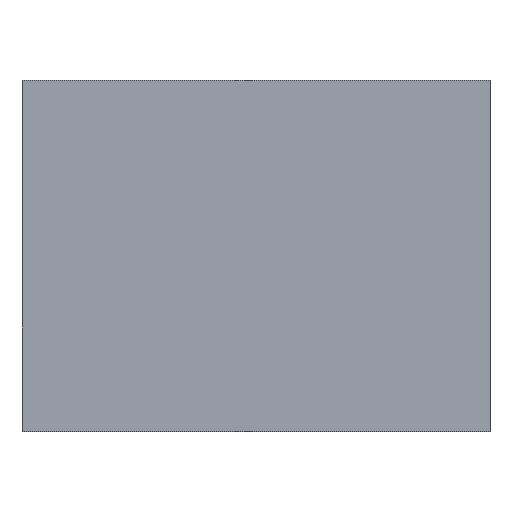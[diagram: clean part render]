
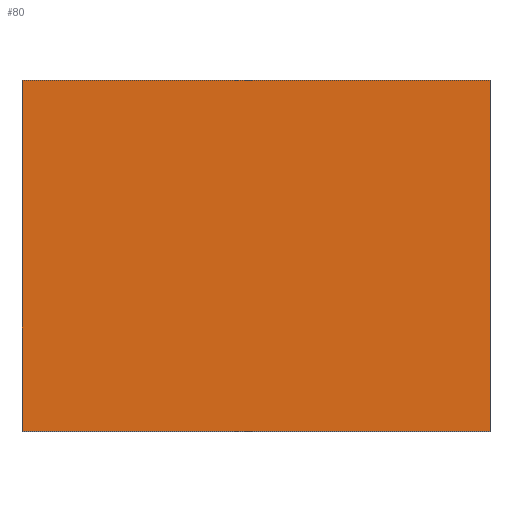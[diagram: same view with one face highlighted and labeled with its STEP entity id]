
A CAD part, top view. The second image highlights one B-rep face of the part: STEP entity #80.
In plain terms, the highlighted planar face has unit normal (0, 0, 1).
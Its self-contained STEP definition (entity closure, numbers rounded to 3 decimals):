
#9=CARTESIAN_POINT('',(0.0,0.0,20.0));
#10=VERTEX_POINT('',#9);
#11=CARTESIAN_POINT('',(40.0,0.0,20.0));
#12=VERTEX_POINT('',#11);
#13=CARTESIAN_POINT('',(40.0,30.0,20.0));
#14=VERTEX_POINT('',#13);
#15=CARTESIAN_POINT('',(0.0,30.0,20.0));
#16=VERTEX_POINT('',#15);
#49=CARTESIAN_POINT('',(0.0,0.0,20.0));
#50=DIRECTION('',(1.,0.,0.));
#51=VECTOR('',#50,40.0);
#52=LINE('',#49,#51);
#53=EDGE_CURVE('',#10,#12,#52,.T.);
#54=ORIENTED_EDGE('',*,*,#53,.T.);
#55=CARTESIAN_POINT('',(40.0,0.0,20.0));
#56=DIRECTION('',(0.,1.,0.));
#57=VECTOR('',#56,30.0);
#58=LINE('',#55,#57);
#59=EDGE_CURVE('',#12,#14,#58,.T.);
#60=ORIENTED_EDGE('',*,*,#59,.T.);
#61=CARTESIAN_POINT('',(40.0,30.0,20.0));
#62=DIRECTION('',(-1.,0.,0.));
#63=VECTOR('',#62,40.0);
#64=LINE('',#61,#63);
#65=EDGE_CURVE('',#14,#16,#64,.T.);
#66=ORIENTED_EDGE('',*,*,#65,.T.);
#67=CARTESIAN_POINT('',(0.0,0.0,20.0));
#68=DIRECTION('',(0.,1.,0.));
#69=VECTOR('',#68,30.0);
#70=LINE('',#67,#69);
#71=EDGE_CURVE('',#10,#16,#70,.T.);
#72=ORIENTED_EDGE('',*,*,#71,.F.);
#73=EDGE_LOOP('',(#54,#60,#66,#72));
#74=FACE_OUTER_BOUND('',#73,.T.);
#75=CARTESIAN_POINT('',(0.0,0.0,20.0));
#76=DIRECTION('',(0.,0.,1.));
#77=DIRECTION('',(1.,0.,0.));
#78=AXIS2_PLACEMENT_3D('',#75,#76,#77);
#79=PLANE('',#78);
#80=ADVANCED_FACE('',(#74),#79,.T.);
